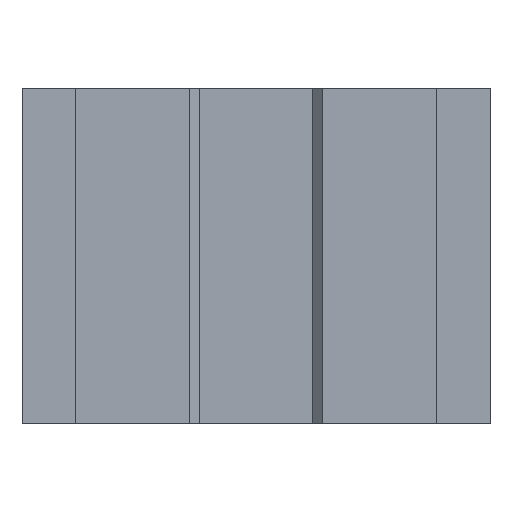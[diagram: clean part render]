
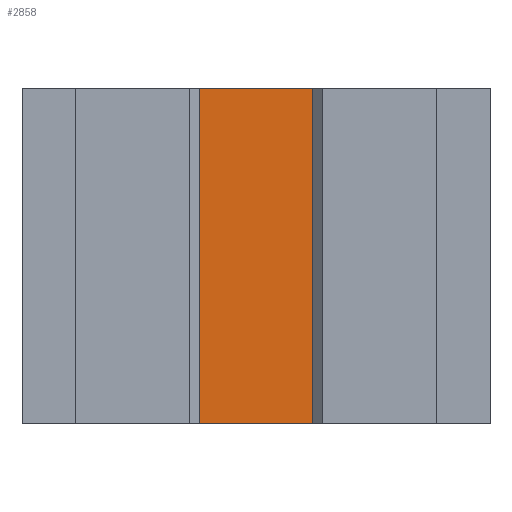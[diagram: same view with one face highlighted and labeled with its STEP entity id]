
A CAD part, front view. The second image highlights one B-rep face of the part: STEP entity #2858.
In plain terms, the highlighted planar face has unit normal (0, -1, 0).
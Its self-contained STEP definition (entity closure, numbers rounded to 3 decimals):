
#30 = ORIENTED_EDGE ( 'NONE', *, *, #2839, .T. ) ;
#173 = VERTEX_POINT ( 'NONE', #1199 ) ;
#294 = LINE ( 'NONE', #295, #296 ) ;
#295 = CARTESIAN_POINT ( 'NONE',  ( 8.5, 5., 0. ) ) ;
#296 = VECTOR ( 'NONE', #297, 1000. ) ;
#297 = DIRECTION ( 'NONE',  ( 1., 0., 0. ) ) ;
#384 = FACE_OUTER_BOUND ( 'NONE', #2338, .T. ) ;
#385 = PLANE ( 'NONE',  #386 ) ;
#386 = AXIS2_PLACEMENT_3D ( 'NONE', #387, #388, #389 ) ;
#387 = CARTESIAN_POINT ( 'NONE',  ( 8.5, 5., 50. ) ) ;
#388 = DIRECTION ( 'NONE',  ( 0., 1., 0. ) ) ;
#389 = DIRECTION ( 'NONE',  ( 0., 0., 1. ) ) ;
#517 = CARTESIAN_POINT ( 'NONE',  ( 8.5, 5., 0. ) ) ;
#520 = ORIENTED_EDGE ( 'NONE', *, *, #2427, .T. ) ;
#676 = LINE ( 'NONE', #677, #678 ) ;
#677 = CARTESIAN_POINT ( 'NONE',  ( -8.5, 5., 50. ) ) ;
#678 = VECTOR ( 'NONE', #679, 1000. ) ;
#679 = DIRECTION ( 'NONE',  ( 0., 0., -1. ) ) ;
#871 = LINE ( 'NONE', #872, #873 ) ;
#872 = CARTESIAN_POINT ( 'NONE',  ( 8.5, 5., 50. ) ) ;
#873 = VECTOR ( 'NONE', #874, 1000. ) ;
#874 = DIRECTION ( 'NONE',  ( 0., 0., -1. ) ) ;
#1146 = CARTESIAN_POINT ( 'NONE',  ( -8.5, 5., 0. ) ) ;
#1199 = CARTESIAN_POINT ( 'NONE',  ( -8.5, 5., 50. ) ) ;
#1532 = LINE ( 'NONE', #1533, #1534 ) ;
#1533 = CARTESIAN_POINT ( 'NONE',  ( 8.5, 5., 50. ) ) ;
#1534 = VECTOR ( 'NONE', #1535, 1000. ) ;
#1535 = DIRECTION ( 'NONE',  ( 1., 0., 0. ) ) ;
#1830 = CARTESIAN_POINT ( 'NONE',  ( 8.5, 5., 50. ) ) ;
#2119 = EDGE_CURVE ( 'NONE', #2666, #2867, #871, .T. ) ;
#2338 = EDGE_LOOP ( 'NONE', ( #30, #2374, #2866, #520 ) ) ;
#2374 = ORIENTED_EDGE ( 'NONE', *, *, #2119, .F. ) ;
#2427 = EDGE_CURVE ( 'NONE', #173, #2781, #676, .T. ) ;
#2576 = EDGE_CURVE ( 'NONE', #173, #2666, #1532, .T. ) ;
#2666 = VERTEX_POINT ( 'NONE', #1830 ) ;
#2781 = VERTEX_POINT ( 'NONE', #1146 ) ;
#2839 = EDGE_CURVE ( 'NONE', #2781, #2867, #294, .T. ) ;
#2858 = ADVANCED_FACE ( 'NONE', ( #384 ), #385, .F. ) ;
#2866 = ORIENTED_EDGE ( 'NONE', *, *, #2576, .F. ) ;
#2867 = VERTEX_POINT ( 'NONE', #517 ) ;
